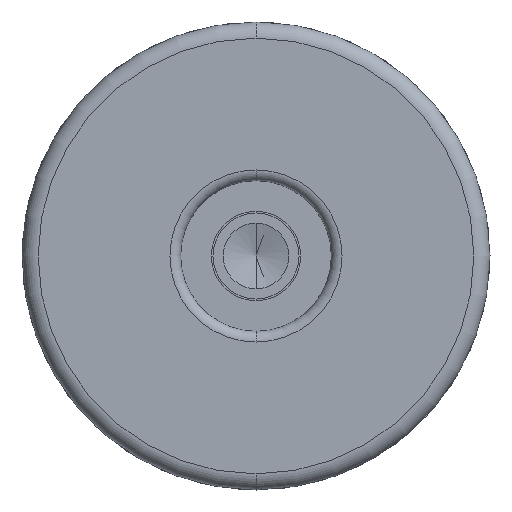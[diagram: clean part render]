
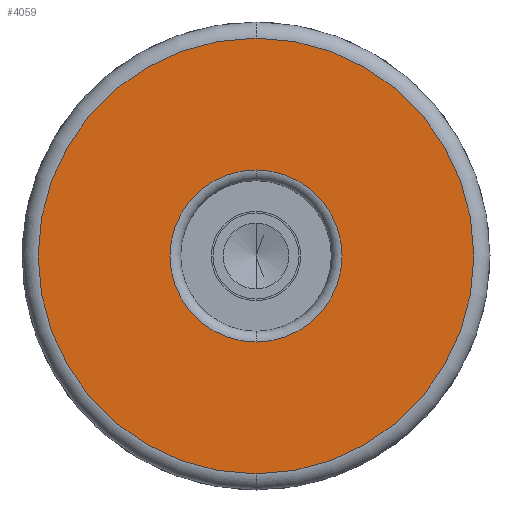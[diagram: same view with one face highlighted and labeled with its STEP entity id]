
A CAD part, front view. The second image highlights one B-rep face of the part: STEP entity #4059.
In plain terms, the highlighted planar face has unit normal (0, -1, 0).
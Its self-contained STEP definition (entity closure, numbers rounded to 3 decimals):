
#232 = FACE_OUTER_BOUND ( 'NONE', #1135, .T. ) ;
#416 = CARTESIAN_POINT ( 'NONE',  ( -7., 0., 0. ) ) ;
#495 = AXIS2_PLACEMENT_3D ( 'NONE', #416, #3420, #5950 ) ;
#594 = VERTEX_POINT ( 'NONE', #1049 ) ;
#615 = CARTESIAN_POINT ( 'NONE',  ( 0., 0., 0. ) ) ;
#624 = FACE_BOUND ( 'NONE', #2410, .T. ) ;
#712 = CARTESIAN_POINT ( 'NONE',  ( 0., 0., 20.25 ) ) ;
#713 = CARTESIAN_POINT ( 'NONE',  ( 0., 0., 0. ) ) ;
#1049 = CARTESIAN_POINT ( 'NONE',  ( 0., 0., -20.25 ) ) ;
#1103 = CARTESIAN_POINT ( 'NONE',  ( 0., 0., -8. ) ) ;
#1135 = EDGE_LOOP ( 'NONE', ( #3551, #3505 ) ) ;
#1238 = ORIENTED_EDGE ( 'NONE', *, *, #2208, .T. ) ;
#2133 = DIRECTION ( 'NONE',  ( 0., -1., 0. ) ) ;
#2208 = EDGE_CURVE ( 'NONE', #2462, #3280, #2511, .T. ) ;
#2410 = EDGE_LOOP ( 'NONE', ( #1238, #3218 ) ) ;
#2462 = VERTEX_POINT ( 'NONE', #1103 ) ;
#2511 = CIRCLE ( 'NONE', #5727, 8. ) ;
#2560 = VERTEX_POINT ( 'NONE', #712 ) ;
#2637 = CIRCLE ( 'NONE', #5499, 8. ) ;
#2844 = CIRCLE ( 'NONE', #3608, 20.25 ) ;
#3101 = DIRECTION ( 'NONE',  ( 0., 0., -1. ) ) ;
#3216 = DIRECTION ( 'NONE',  ( 0., 1., 0. ) ) ;
#3218 = ORIENTED_EDGE ( 'NONE', *, *, #5758, .T. ) ;
#3240 = EDGE_CURVE ( 'NONE', #594, #2560, #2844, .T. ) ;
#3246 = CARTESIAN_POINT ( 'NONE',  ( 0., 0., 0. ) ) ;
#3280 = VERTEX_POINT ( 'NONE', #4035 ) ;
#3420 = DIRECTION ( 'NONE',  ( 0., -1., 0. ) ) ;
#3482 = DIRECTION ( 'NONE',  ( 0., -1., 0. ) ) ;
#3505 = ORIENTED_EDGE ( 'NONE', *, *, #3793, .T. ) ;
#3551 = ORIENTED_EDGE ( 'NONE', *, *, #3240, .T. ) ;
#3608 = AXIS2_PLACEMENT_3D ( 'NONE', #6011, #3482, #4430 ) ;
#3717 = AXIS2_PLACEMENT_3D ( 'NONE', #615, #2133, #3101 ) ;
#3793 = EDGE_CURVE ( 'NONE', #2560, #594, #4359, .T. ) ;
#4035 = CARTESIAN_POINT ( 'NONE',  ( 0., 0., 8. ) ) ;
#4059 = ADVANCED_FACE ( 'NONE', ( #232, #624 ), #5928, .T. ) ;
#4182 = DIRECTION ( 'NONE',  ( 0., 1., 0. ) ) ;
#4359 = CIRCLE ( 'NONE', #3717, 20.25 ) ;
#4430 = DIRECTION ( 'NONE',  ( 0., 0., -1. ) ) ;
#5499 = AXIS2_PLACEMENT_3D ( 'NONE', #713, #3216, #6274 ) ;
#5688 = DIRECTION ( 'NONE',  ( 0., 0., -1. ) ) ;
#5727 = AXIS2_PLACEMENT_3D ( 'NONE', #3246, #4182, #5688 ) ;
#5758 = EDGE_CURVE ( 'NONE', #3280, #2462, #2637, .T. ) ;
#5928 = PLANE ( 'NONE',  #495 ) ;
#5950 = DIRECTION ( 'NONE',  ( 0., 0., -1. ) ) ;
#6011 = CARTESIAN_POINT ( 'NONE',  ( 0., 0., 0. ) ) ;
#6274 = DIRECTION ( 'NONE',  ( 0., 0., -1. ) ) ;
